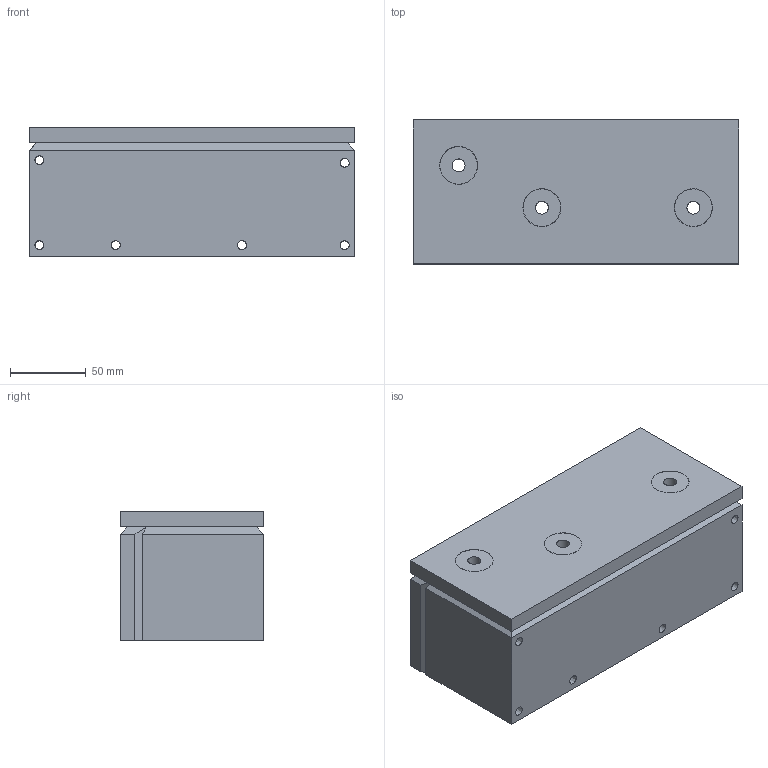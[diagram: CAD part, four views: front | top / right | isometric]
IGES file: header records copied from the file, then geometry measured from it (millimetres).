
Global section: file name: LinkageForged_All; native system: unknown; preprocessor: unknown; author: unknown; organization: unknown; date: 20240418.081733; units: millimetre
Bounding box: 215 x 95 x 85 mm (x, y, z)
Volume: 1691742.7 mm3; surface area: 264796.1 mm2
Topology: 10 solids, 10 shells, 354 faces, 877 edges, 557 vertices
Faces by surface type: bspline 354
